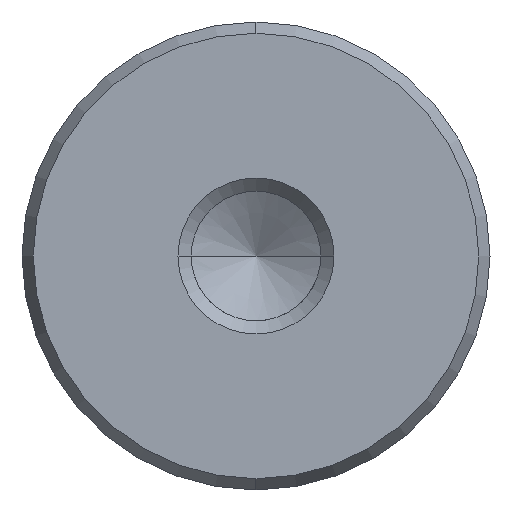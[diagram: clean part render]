
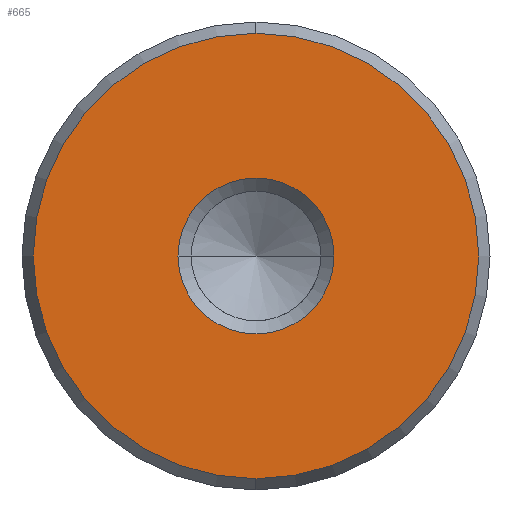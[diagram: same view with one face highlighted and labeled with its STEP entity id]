
A CAD part, left-side view. The second image highlights one B-rep face of the part: STEP entity #665.
In plain terms, the highlighted planar face has unit normal (-1, 0, 0).
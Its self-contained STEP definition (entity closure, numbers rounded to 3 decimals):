
#579=CARTESIAN_POINT('Vertex',(0.,0.,-11.423)) ;
#582=CARTESIAN_POINT('Axis2P3D Location',(0.,0.,0.)) ;
#586=CARTESIAN_POINT('Vertex',(0.,11.423,0.)) ;
#589=CARTESIAN_POINT('Axis2P3D Location',(0.,0.,0.)) ;
#593=CARTESIAN_POINT('Vertex',(0.,0.,11.423)) ;
#615=CARTESIAN_POINT('Axis2P3D Location',(0.,0.,0.)) ;
#619=CARTESIAN_POINT('Vertex',(0.,-11.423,0.)) ;
#622=CARTESIAN_POINT('Axis2P3D Location',(0.,0.,0.)) ;
#636=CARTESIAN_POINT('Axis2P3D Location',(0.,0.,0.)) ;
#647=CARTESIAN_POINT('Axis2P3D Location',(0.,0.,0.)) ;
#651=CARTESIAN_POINT('Vertex',(0.,4.,0.)) ;
#653=CARTESIAN_POINT('Vertex',(0.,-4.,0.)) ;
#656=CARTESIAN_POINT('Axis2P3D Location',(0.,0.,0.)) ;
#583=DIRECTION('Axis2P3D Direction',(1.,0.,-0.)) ;
#590=DIRECTION('Axis2P3D Direction',(1.,0.,-0.)) ;
#616=DIRECTION('Axis2P3D Direction',(1.,0.,-0.)) ;
#623=DIRECTION('Axis2P3D Direction',(1.,0.,-0.)) ;
#637=DIRECTION('Axis2P3D Direction',(1.,0.,-0.)) ;
#638=DIRECTION('Axis2P3D XDirection',(-0.,0.,-1.)) ;
#648=DIRECTION('Axis2P3D Direction',(1.,0.,-0.)) ;
#657=DIRECTION('Axis2P3D Direction',(1.,0.,-0.)) ;
#584=AXIS2_PLACEMENT_3D('Circle Axis2P3D',#582,#583,$) ;
#591=AXIS2_PLACEMENT_3D('Circle Axis2P3D',#589,#590,$) ;
#617=AXIS2_PLACEMENT_3D('Circle Axis2P3D',#615,#616,$) ;
#624=AXIS2_PLACEMENT_3D('Circle Axis2P3D',#622,#623,$) ;
#639=AXIS2_PLACEMENT_3D('Plane Axis2P3D',#636,#637,#638) ;
#649=AXIS2_PLACEMENT_3D('Circle Axis2P3D',#647,#648,$) ;
#658=AXIS2_PLACEMENT_3D('Circle Axis2P3D',#656,#657,$) ;
#642=ORIENTED_EDGE('',*,*,#588,.F.) ;
#643=ORIENTED_EDGE('',*,*,#626,.F.) ;
#644=ORIENTED_EDGE('',*,*,#621,.F.) ;
#645=ORIENTED_EDGE('',*,*,#595,.F.) ;
#662=ORIENTED_EDGE('',*,*,#655,.T.) ;
#663=ORIENTED_EDGE('',*,*,#660,.T.) ;
#664=FACE_BOUND('',#661,.T.) ;
#665=ADVANCED_FACE('720-24x315',(#646,#664),#640,.F.) ;
#585=CIRCLE('generated circle',#584,11.423) ;
#592=CIRCLE('generated circle',#591,11.423) ;
#618=CIRCLE('generated circle',#617,11.423) ;
#625=CIRCLE('generated circle',#624,11.423) ;
#650=CIRCLE('generated circle',#649,4.) ;
#659=CIRCLE('generated circle',#658,4.) ;
#588=EDGE_CURVE('',#580,#587,#585,.T.) ;
#595=EDGE_CURVE('',#587,#594,#592,.T.) ;
#621=EDGE_CURVE('',#594,#620,#618,.T.) ;
#626=EDGE_CURVE('',#620,#580,#625,.T.) ;
#655=EDGE_CURVE('',#652,#654,#650,.T.) ;
#660=EDGE_CURVE('',#654,#652,#659,.T.) ;
#641=EDGE_LOOP('',(#642,#643,#644,#645)) ;
#661=EDGE_LOOP('',(#662,#663)) ;
#646=FACE_OUTER_BOUND('',#641,.T.) ;
#640=PLANE('Plane',#639) ;
#580=VERTEX_POINT('',#579) ;
#587=VERTEX_POINT('',#586) ;
#594=VERTEX_POINT('',#593) ;
#620=VERTEX_POINT('',#619) ;
#652=VERTEX_POINT('',#651) ;
#654=VERTEX_POINT('',#653) ;
